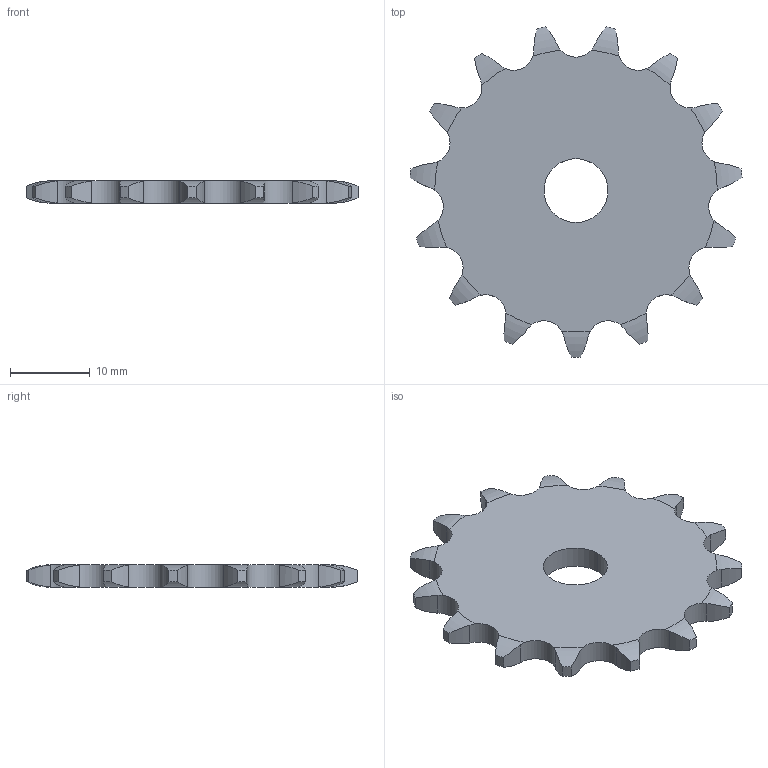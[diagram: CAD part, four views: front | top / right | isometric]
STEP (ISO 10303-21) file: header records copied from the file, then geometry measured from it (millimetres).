
FILE_DESCRIPTION((''),'2;1');
FILE_NAME('500-081-0015_PRT','2021-02-12T',('Brieden'),('Brieden'),'PRO/ENGINEER BY PARAMETRIC TECHNOLOGY CORPORATION, 2010160','PRO/ENGINEER BY PARAMETRIC TECHNOLOGY CORPORATION, 2010160','');
FILE_SCHEMA(('AUTOMOTIVE_DESIGN { 1 0 10303 214 1 1 1 1 }'));
Length unit declared in the file: millimetre
Products named in the file (1): 500-081-0015_PRT
Bounding box: 41.57 x 41.35 x 2.8 mm (x, y, z)
Volume: 2790 mm3; surface area: 2548.5 mm2
Topology: 1 solids, 1 shells, 94 faces, 276 edges, 184 vertices
Faces by surface type: cylinder 62, torus 30, plane 2
Entity records: 4573 total; most frequent: CARTESIAN_POINT 1314, ORIENTED_EDGE 552, DIRECTION 438, PRESENTATION_STYLE_ASSIGNMENT 277, STYLED_ITEM 277, CURVE_STYLE 276, EDGE_CURVE 276, AXIS2_PLACEMENT_3D 188
